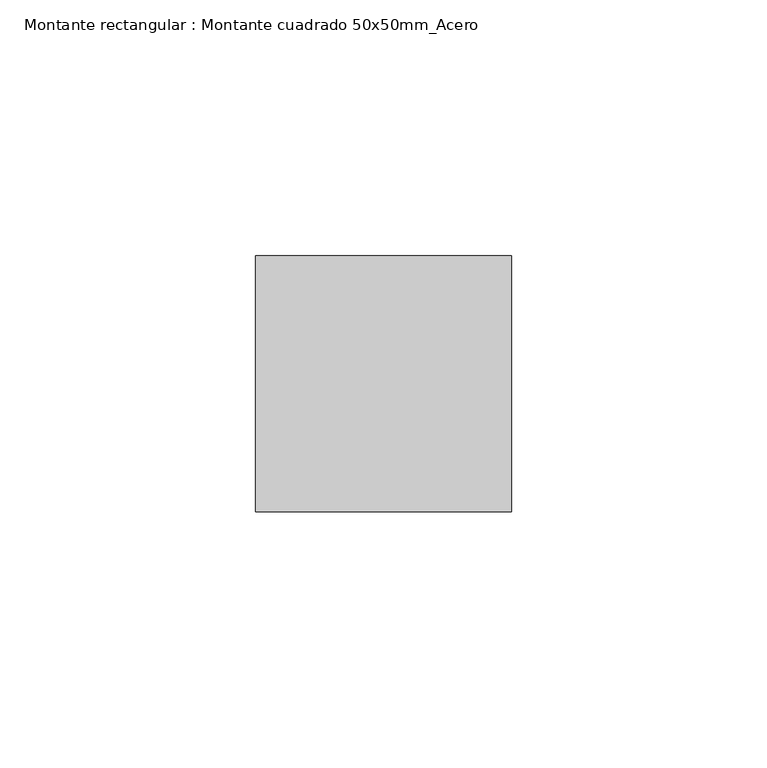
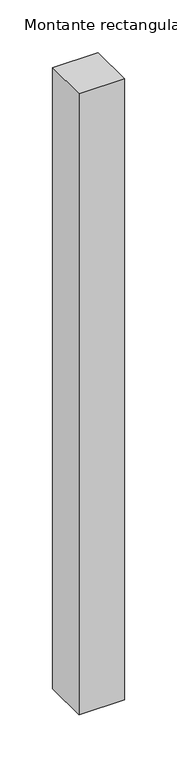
"""IFC4 building model written with IfcOpenShell, lengths in millimetres: member geometry, Montante rectangular : Montante cuadrado 50x50mm_Acero."""

from ifc_helpers import new_model, si_unit, frame, origin, place, context, project, spatial, polyline, outline, extrude, source, transform, mapped, element, save


def montante_rectangular_montante_cuadrado_50x50mm_acero_28ed77df(model_context):
    return source(origin(), model_context, "Body", "SweptSolid", [
        extrude(outline(polyline([(-50.0, 0.0), (0.0, 0.0), (0.0, -50.0), (-50.0, -50.0), (-50.0, 0.0)])), frame((0.0, 0.0, -720.0), z_axis=(0.0, 0.0, 1.0), x_axis=(1.0, 0.0, 0.0)), (0.0, 0.0, 1.0), 720.0),
    ])


if __name__ == "__main__":
    model = new_model("IFC4")
    model_context = context("Model", 3, world=origin())
    ifc_project = project(units=[si_unit("LENGTHUNIT", "METRE", prefix="MILLI")], contexts=[model_context])
    site = spatial("IfcSite", under=ifc_project)
    building = spatial("IfcBuilding", under=site)
    placement = place(None, origin())
    montante_rectangular_montante_cuadrado_50x50mm_acero_shape = montante_rectangular_montante_cuadrado_50x50mm_acero_28ed77df(model_context)
    element("IfcMember", 1, ObjectType="Montante rectangular : Montante cuadrado 50x50mm_Acero", at=placement, inside=building, context=model_context, shape_type="MappedRepresentation", body=[
        mapped(montante_rectangular_montante_cuadrado_50x50mm_acero_shape, transform((0.0, 0.0, 0.0), x_axis=(1.0, 0.0, 0.0), y_axis=(0.0, 1.0, 0.0), z_axis=(0.0, 0.0, 1.0))),
    ])
    save(model, "model.ifc")
